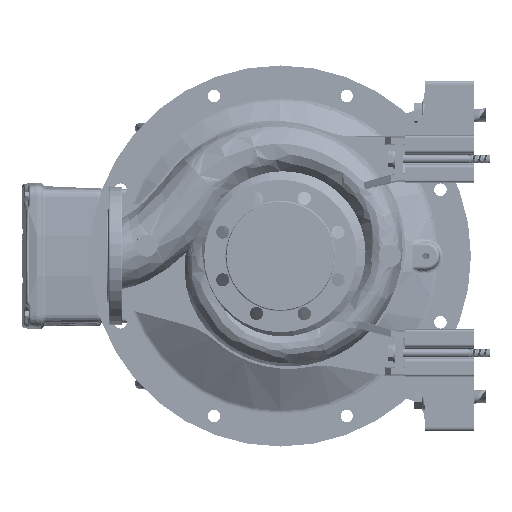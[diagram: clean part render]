
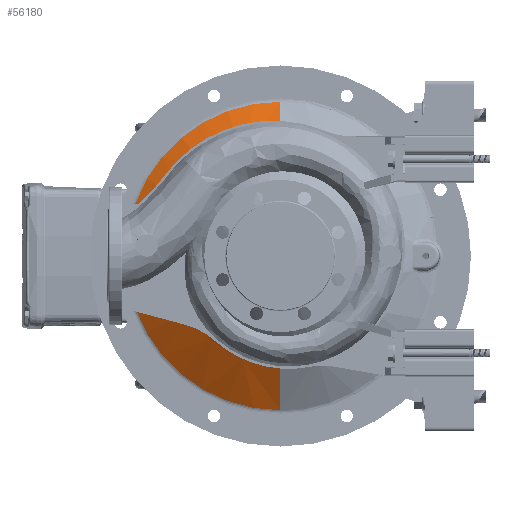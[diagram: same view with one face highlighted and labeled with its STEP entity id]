
A CAD part, left-side view. The second image highlights one B-rep face of the part: STEP entity #56180.
In plain terms, the highlighted conical face has half-angle 60 degrees and reference radius 222.68 mm.
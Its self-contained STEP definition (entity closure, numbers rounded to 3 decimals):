
#5728 = CARTESIAN_POINT ( 'NONE',  ( 275.662, -0.001, -222.679 ) ) ;
#6195 = LINE ( 'NONE', #19750, #108411 ) ;
#8777 = ORIENTED_EDGE ( 'NONE', *, *, #119181, .T. ) ;
#11588 = AXIS2_PLACEMENT_3D ( 'NONE', #26260, #131307, #79623 ) ;
#12127 = DIRECTION ( 'NONE',  ( 0.5, 0., -0.866 ) ) ;
#13974 = VERTEX_POINT ( 'NONE', #164624 ) ;
#19750 = CARTESIAN_POINT ( 'NONE',  ( 275.662, -0.001, 222.68 ) ) ;
#22800 = B_SPLINE_CURVE_WITH_KNOTS ( 'NONE', 3,
 ( #82513, #83358, #137570, #44377 ),
 .UNSPECIFIED., .F., .F.,
 ( 4, 4 ),
 ( 0., 0.5 ),
 .UNSPECIFIED. ) ;
#26260 = CARTESIAN_POINT ( 'NONE',  ( 275.662, -0.001, 0.001 ) ) ;
#36912 = VERTEX_POINT ( 'NONE', #84405 ) ;
#37997 = ORIENTED_EDGE ( 'NONE', *, *, #78794, .F. ) ;
#44377 = CARTESIAN_POINT ( 'NONE',  ( 201.65, -0.001, -94.487 ) ) ;
#56180 = ADVANCED_FACE ( 'NONE', ( #140531 ), #97730, .T. ) ;
#58414 = VERTEX_POINT ( 'NONE', #5728 ) ;
#62425 = VERTEX_POINT ( 'NONE', #166026 ) ;
#67613 = DIRECTION ( 'NONE',  ( -1., 0., 0. ) ) ;
#68904 = ORIENTED_EDGE ( 'NONE', *, *, #132365, .T. ) ;
#75269 = DIRECTION ( 'NONE',  ( 1., 0., 0. ) ) ;
#77346 = CARTESIAN_POINT ( 'NONE',  ( 275.662, -0.001, -222.679 ) ) ;
#77750 = CARTESIAN_POINT ( 'NONE',  ( 275.662, -0.001, 0.001 ) ) ;
#78794 = EDGE_CURVE ( 'NONE', #132048, #13974, #88085, .T. ) ;
#79623 = DIRECTION ( 'NONE',  ( 0., 0., 1. ) ) ;
#79970 = AXIS2_PLACEMENT_3D ( 'NONE', #130333, #67613, #119288 ) ;
#81590 = CARTESIAN_POINT ( 'NONE',  ( 201.65, 0.197, 94.488 ) ) ;
#82406 = CARTESIAN_POINT ( 'NONE',  ( 201.65, 0.098, 94.489 ) ) ;
#82461 = DIRECTION ( 'NONE',  ( 0.5, 0., 0.866 ) ) ;
#82513 = CARTESIAN_POINT ( 'NONE',  ( 201.65, 0.295, -94.487 ) ) ;
#83358 = CARTESIAN_POINT ( 'NONE',  ( 201.65, 0.197, -94.487 ) ) ;
#84405 = CARTESIAN_POINT ( 'NONE',  ( 275.662, -0.001, 222.68 ) ) ;
#88085 = CIRCLE ( 'NONE', #79970, 94.488 ) ;
#92303 = EDGE_CURVE ( 'NONE', #103598, #58414, #118018, .T. ) ;
#97730 = CONICAL_SURFACE ( 'NONE', #111381, 222.68, 1.047 ) ;
#103567 = EDGE_CURVE ( 'NONE', #132048, #62425, #135211, .T. ) ;
#103598 = VERTEX_POINT ( 'NONE', #131586 ) ;
#105384 = ORIENTED_EDGE ( 'NONE', *, *, #144185, .F. ) ;
#106970 = CARTESIAN_POINT ( 'NONE',  ( 201.65, 0.295, 94.488 ) ) ;
#108411 = VECTOR ( 'NONE', #82461, 1000. ) ;
#111204 = EDGE_LOOP ( 'NONE', ( #118865, #68904, #8777, #127740, #105384, #37997 ) ) ;
#111381 = AXIS2_PLACEMENT_3D ( 'NONE', #77750, #75269, #129448 ) ;
#118018 = LINE ( 'NONE', #77346, #129684 ) ;
#118865 = ORIENTED_EDGE ( 'NONE', *, *, #103567, .T. ) ;
#119181 = EDGE_CURVE ( 'NONE', #36912, #58414, #144206, .T. ) ;
#119288 = DIRECTION ( 'NONE',  ( 0., 0., 1. ) ) ;
#119710 = CARTESIAN_POINT ( 'NONE',  ( 201.65, -0.001, 94.488 ) ) ;
#122461 = CARTESIAN_POINT ( 'NONE',  ( 201.65, 0.295, 94.488 ) ) ;
#127740 = ORIENTED_EDGE ( 'NONE', *, *, #92303, .F. ) ;
#129448 = DIRECTION ( 'NONE',  ( 0., 0., -1. ) ) ;
#129684 = VECTOR ( 'NONE', #12127, 1000. ) ;
#130333 = CARTESIAN_POINT ( 'NONE',  ( 201.65, -0.001, 0.001 ) ) ;
#131307 = DIRECTION ( 'NONE',  ( -1., 0., 0. ) ) ;
#131586 = CARTESIAN_POINT ( 'NONE',  ( 201.65, -0.001, -94.487 ) ) ;
#132048 = VERTEX_POINT ( 'NONE', #122461 ) ;
#132365 = EDGE_CURVE ( 'NONE', #62425, #36912, #6195, .T. ) ;
#135211 = B_SPLINE_CURVE_WITH_KNOTS ( 'NONE', 3,
 ( #106970, #81590, #82406, #119710 ),
 .UNSPECIFIED., .F., .F.,
 ( 4, 4 ),
 ( 0., 0.5 ),
 .UNSPECIFIED. ) ;
#137570 = CARTESIAN_POINT ( 'NONE',  ( 201.65, 0.098, -94.487 ) ) ;
#140531 = FACE_OUTER_BOUND ( 'NONE', #111204, .T. ) ;
#144185 = EDGE_CURVE ( 'NONE', #13974, #103598, #22800, .T. ) ;
#144206 = CIRCLE ( 'NONE', #11588, 222.68 ) ;
#164624 = CARTESIAN_POINT ( 'NONE',  ( 201.65, 0.295, -94.487 ) ) ;
#166026 = CARTESIAN_POINT ( 'NONE',  ( 201.65, -0.001, 94.488 ) ) ;
